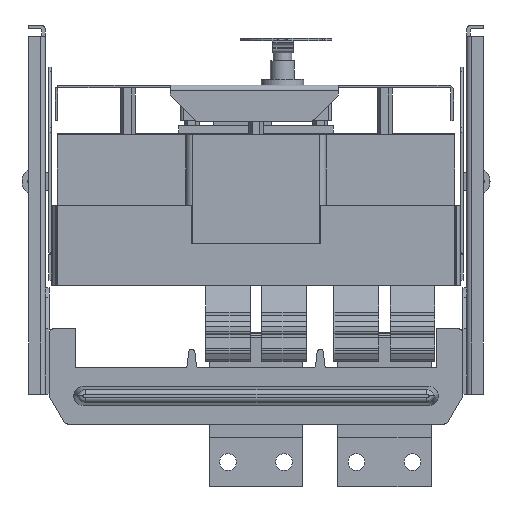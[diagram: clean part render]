
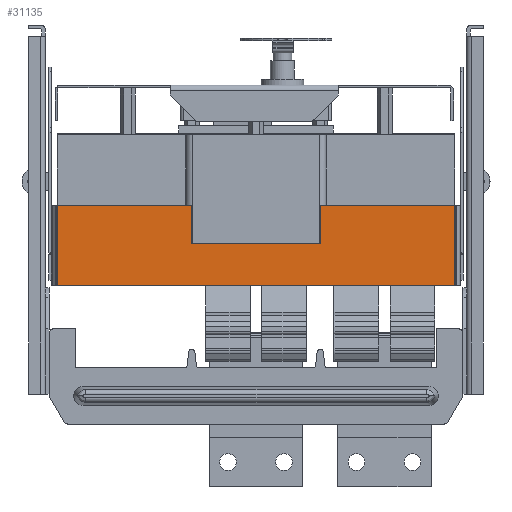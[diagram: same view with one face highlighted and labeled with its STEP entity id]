
A CAD part, front view. The second image highlights one B-rep face of the part: STEP entity #31135.
In plain terms, the highlighted planar face has unit normal (0, -1, 0).
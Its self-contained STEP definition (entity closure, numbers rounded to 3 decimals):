
#641 = CARTESIAN_POINT ( 'NONE',  ( 281.3, 0., 45. ) ) ;
#1913 = EDGE_CURVE ( 'NONE', #13366, #3749, #39589, .T. ) ;
#2072 = CARTESIAN_POINT ( 'NONE',  ( 281.3, 0., 86. ) ) ;
#3065 = DIRECTION ( 'NONE',  ( -1., 0., 0. ) ) ;
#3749 = VERTEX_POINT ( 'NONE', #41342 ) ;
#3999 = ORIENTED_EDGE ( 'NONE', *, *, #35805, .F. ) ;
#4432 = CARTESIAN_POINT ( 'NONE',  ( 0., 0., 315. ) ) ;
#4511 = VECTOR ( 'NONE', #34845, 1000. ) ;
#4593 = LINE ( 'NONE', #32617, #11142 ) ;
#4700 = EDGE_CURVE ( 'NONE', #15994, #33800, #28194, .T. ) ;
#4914 = DIRECTION ( 'NONE',  ( 1., 0., 0. ) ) ;
#4975 = CARTESIAN_POINT ( 'NONE',  ( 0., 0., 315. ) ) ;
#6364 = ORIENTED_EDGE ( 'NONE', *, *, #33255, .T. ) ;
#6400 = LINE ( 'NONE', #30577, #38430 ) ;
#6958 = CARTESIAN_POINT ( 'NONE',  ( 425., 0., 315. ) ) ;
#8345 = EDGE_CURVE ( 'NONE', #38088, #15994, #24310, .T. ) ;
#9430 = ORIENTED_EDGE ( 'NONE', *, *, #13881, .T. ) ;
#9929 = CARTESIAN_POINT ( 'NONE',  ( 143.7, 0., 45. ) ) ;
#10279 = CARTESIAN_POINT ( 'NONE',  ( 425., 0., 86. ) ) ;
#10703 = LINE ( 'NONE', #32499, #35238 ) ;
#10754 = DIRECTION ( 'NONE',  ( 0., 0., 1. ) ) ;
#11142 = VECTOR ( 'NONE', #3065, 1000. ) ;
#11486 = LINE ( 'NONE', #28695, #27510 ) ;
#12165 = VECTOR ( 'NONE', #26270, 1000. ) ;
#12198 = VERTEX_POINT ( 'NONE', #39675 ) ;
#13366 = VERTEX_POINT ( 'NONE', #30564 ) ;
#13881 = EDGE_CURVE ( 'NONE', #3749, #35819, #18514, .T. ) ;
#14067 = CARTESIAN_POINT ( 'NONE',  ( 143.7, 0., 45. ) ) ;
#15994 = VERTEX_POINT ( 'NONE', #36303 ) ;
#16096 = ORIENTED_EDGE ( 'NONE', *, *, #8345, .F. ) ;
#17580 = ORIENTED_EDGE ( 'NONE', *, *, #1913, .T. ) ;
#18105 = EDGE_CURVE ( 'NONE', #21769, #39949, #38680, .T. ) ;
#18169 = ORIENTED_EDGE ( 'NONE', *, *, #18105, .F. ) ;
#18514 = LINE ( 'NONE', #4975, #33535 ) ;
#19488 = AXIS2_PLACEMENT_3D ( 'NONE', #4432, #33145, #10754 ) ;
#21769 = VERTEX_POINT ( 'NONE', #10279 ) ;
#22059 = EDGE_CURVE ( 'NONE', #38088, #12198, #6400, .T. ) ;
#22339 = CARTESIAN_POINT ( 'NONE',  ( 425., 0., 0. ) ) ;
#22625 = DIRECTION ( 'NONE',  ( 1., 0., 0. ) ) ;
#23460 = CARTESIAN_POINT ( 'NONE',  ( 0., 0., 0. ) ) ;
#23584 = ORIENTED_EDGE ( 'NONE', *, *, #25562, .T. ) ;
#24024 = DIRECTION ( 'NONE',  ( 1., 0., 0. ) ) ;
#24188 = DIRECTION ( 'NONE',  ( 0., 0., -1. ) ) ;
#24310 = LINE ( 'NONE', #9929, #40358 ) ;
#25236 = DIRECTION ( 'NONE',  ( -1., 0., 0. ) ) ;
#25324 = CARTESIAN_POINT ( 'NONE',  ( 425., 0., 86. ) ) ;
#25562 = EDGE_CURVE ( 'NONE', #21769, #34122, #4593, .T. ) ;
#25979 = ORIENTED_EDGE ( 'NONE', *, *, #29333, .T. ) ;
#26270 = DIRECTION ( 'NONE',  ( 0., 0., 1. ) ) ;
#26750 = EDGE_LOOP ( 'NONE', ( #16096, #38432, #6364, #17580, #9430, #25979, #18169, #23584, #3999, #40326 ) ) ;
#27510 = VECTOR ( 'NONE', #4914, 1000. ) ;
#28194 = LINE ( 'NONE', #641, #12165 ) ;
#28695 = CARTESIAN_POINT ( 'NONE',  ( 0., 0., 86. ) ) ;
#29291 = VECTOR ( 'NONE', #24024, 1000. ) ;
#29333 = EDGE_CURVE ( 'NONE', #35819, #39949, #37767, .T. ) ;
#29346 = DIRECTION ( 'NONE',  ( 0., 0., -1. ) ) ;
#30170 = VECTOR ( 'NONE', #29346, 1000. ) ;
#30486 = CARTESIAN_POINT ( 'NONE',  ( 0., 0., 0. ) ) ;
#30564 = CARTESIAN_POINT ( 'NONE',  ( 142.839, 0., 86. ) ) ;
#30577 = CARTESIAN_POINT ( 'NONE',  ( 143.7, 0., 45. ) ) ;
#31135 = ADVANCED_FACE ( 'NONE', ( #36093 ), #36332, .F. ) ;
#32499 = CARTESIAN_POINT ( 'NONE',  ( 425., 0., 86. ) ) ;
#32617 = CARTESIAN_POINT ( 'NONE',  ( 425., 0., 86. ) ) ;
#33117 = CARTESIAN_POINT ( 'NONE',  ( 282.161, 0., 86. ) ) ;
#33145 = DIRECTION ( 'NONE',  ( 0., 1., 0. ) ) ;
#33255 = EDGE_CURVE ( 'NONE', #12198, #13366, #10703, .T. ) ;
#33535 = VECTOR ( 'NONE', #24188, 1000. ) ;
#33800 = VERTEX_POINT ( 'NONE', #2072 ) ;
#34122 = VERTEX_POINT ( 'NONE', #33117 ) ;
#34845 = DIRECTION ( 'NONE',  ( -1., 0., 0. ) ) ;
#35238 = VECTOR ( 'NONE', #25236, 1000. ) ;
#35805 = EDGE_CURVE ( 'NONE', #33800, #34122, #11486, .T. ) ;
#35819 = VERTEX_POINT ( 'NONE', #23460 ) ;
#36093 = FACE_OUTER_BOUND ( 'NONE', #26750, .T. ) ;
#36303 = CARTESIAN_POINT ( 'NONE',  ( 281.3, 0., 45. ) ) ;
#36332 = PLANE ( 'NONE',  #19488 ) ;
#36748 = DIRECTION ( 'NONE',  ( 0., 0., 1. ) ) ;
#37767 = LINE ( 'NONE', #30486, #29291 ) ;
#38088 = VERTEX_POINT ( 'NONE', #14067 ) ;
#38430 = VECTOR ( 'NONE', #36748, 1000. ) ;
#38432 = ORIENTED_EDGE ( 'NONE', *, *, #22059, .T. ) ;
#38680 = LINE ( 'NONE', #6958, #30170 ) ;
#39589 = LINE ( 'NONE', #25324, #4511 ) ;
#39675 = CARTESIAN_POINT ( 'NONE',  ( 143.7, 0., 86. ) ) ;
#39949 = VERTEX_POINT ( 'NONE', #22339 ) ;
#40326 = ORIENTED_EDGE ( 'NONE', *, *, #4700, .F. ) ;
#40358 = VECTOR ( 'NONE', #22625, 1000. ) ;
#41342 = CARTESIAN_POINT ( 'NONE',  ( 0., 0., 86. ) ) ;
